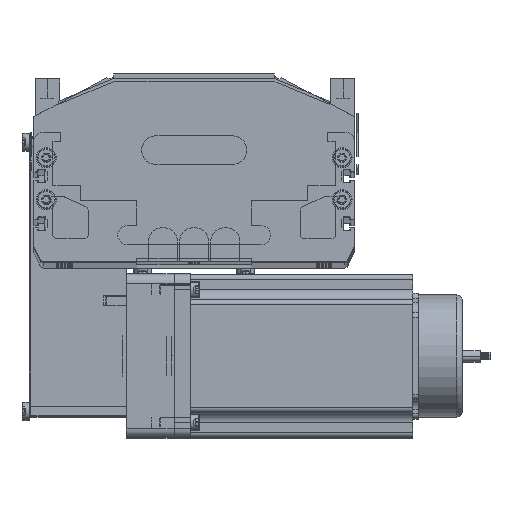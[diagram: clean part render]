
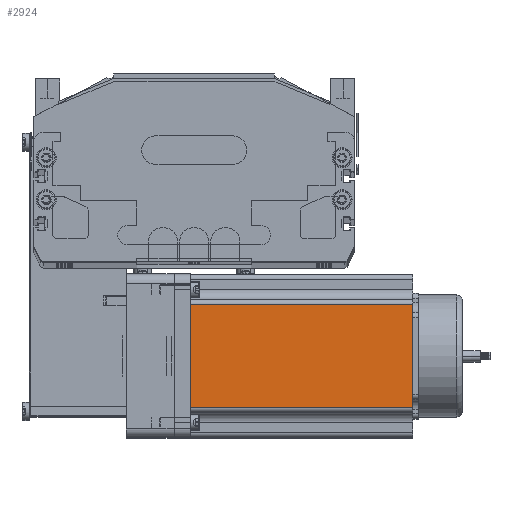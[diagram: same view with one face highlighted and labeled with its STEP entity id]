
A CAD part, top view. The second image highlights one B-rep face of the part: STEP entity #2924.
In plain terms, the highlighted planar face has unit normal (0, 0, 1) as drawn and (0, -1, 0) by its records, which use the part's own axes.
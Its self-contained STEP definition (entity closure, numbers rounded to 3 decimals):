
#2904 = ORIENTED_EDGE ( 'NONE', *, *, #2907, .T. ) ;
#2907 = EDGE_CURVE ( 'NONE', #2926, #2922, #69150, .T. ) ;
#2908 = EDGE_CURVE ( 'NONE', #2956, #2926, #69081, .T. ) ;
#2909 = ORIENTED_EDGE ( 'NONE', *, *, #2910, .F. ) ;
#2910 = EDGE_CURVE ( 'NONE', #29314, #2922, #69077, .T. ) ;
#2915 = EDGE_LOOP ( 'NONE', ( #2988, #2904, #2909, #29459 ) ) ;
#2922 = VERTEX_POINT ( 'NONE', #69063 ) ;
#2924 = ADVANCED_FACE ( 'NONE', ( #69136 ), #69069, .F. ) ;
#2926 = VERTEX_POINT ( 'NONE', #69123 ) ;
#2956 = VERTEX_POINT ( 'NONE', #69203 ) ;
#2988 = ORIENTED_EDGE ( 'NONE', *, *, #2908, .T. ) ;
#15573 = CARTESIAN_POINT ( 'NONE',  ( 16.16, 0., 116.5 ) ) ;
#15597 = LINE ( 'NONE', #15573, #15687 ) ;
#15642 = CARTESIAN_POINT ( 'NONE',  ( 16.16, 0., 116.5 ) ) ;
#15686 = DIRECTION ( 'NONE',  ( 0., 0., -1. ) ) ;
#15687 = VECTOR ( 'NONE', #15686, 1000. ) ;
#29289 = EDGE_CURVE ( 'NONE', #29314, #2956, #15597, .T. ) ;
#29314 = VERTEX_POINT ( 'NONE', #15642 ) ;
#29459 = ORIENTED_EDGE ( 'NONE', *, *, #29289, .T. ) ;
#69063 = CARTESIAN_POINT ( 'NONE',  ( 69.74, 0., 116.5 ) ) ;
#69069 = PLANE ( 'NONE',  #69126 ) ;
#69071 = DIRECTION ( 'NONE',  ( 1., 0., 0. ) ) ;
#69072 = VECTOR ( 'NONE', #69071, 1000. ) ;
#69076 = CARTESIAN_POINT ( 'NONE',  ( 0., 0., 116.5 ) ) ;
#69077 = LINE ( 'NONE', #69076, #69072 ) ;
#69078 = DIRECTION ( 'NONE',  ( 1., 0., 0. ) ) ;
#69079 = VECTOR ( 'NONE', #69078, 1000. ) ;
#69080 = CARTESIAN_POINT ( 'NONE',  ( 0., 0., 0. ) ) ;
#69081 = LINE ( 'NONE', #69080, #69079 ) ;
#69083 = DIRECTION ( 'NONE',  ( 0., 0., 1. ) ) ;
#69118 = DIRECTION ( 'NONE',  ( 0., 0., 1. ) ) ;
#69119 = DIRECTION ( 'NONE',  ( 0., 1., 0. ) ) ;
#69120 = CARTESIAN_POINT ( 'NONE',  ( 0., 0., 116.5 ) ) ;
#69123 = CARTESIAN_POINT ( 'NONE',  ( 69.74, 0., 0. ) ) ;
#69126 = AXIS2_PLACEMENT_3D ( 'NONE', #69120, #69119, #69118 ) ;
#69136 = FACE_OUTER_BOUND ( 'NONE', #2915, .T. ) ;
#69149 = CARTESIAN_POINT ( 'NONE',  ( 69.74, 0., 116.5 ) ) ;
#69150 = LINE ( 'NONE', #69149, #69152 ) ;
#69152 = VECTOR ( 'NONE', #69083, 1000. ) ;
#69203 = CARTESIAN_POINT ( 'NONE',  ( 16.16, 0., 0. ) ) ;
